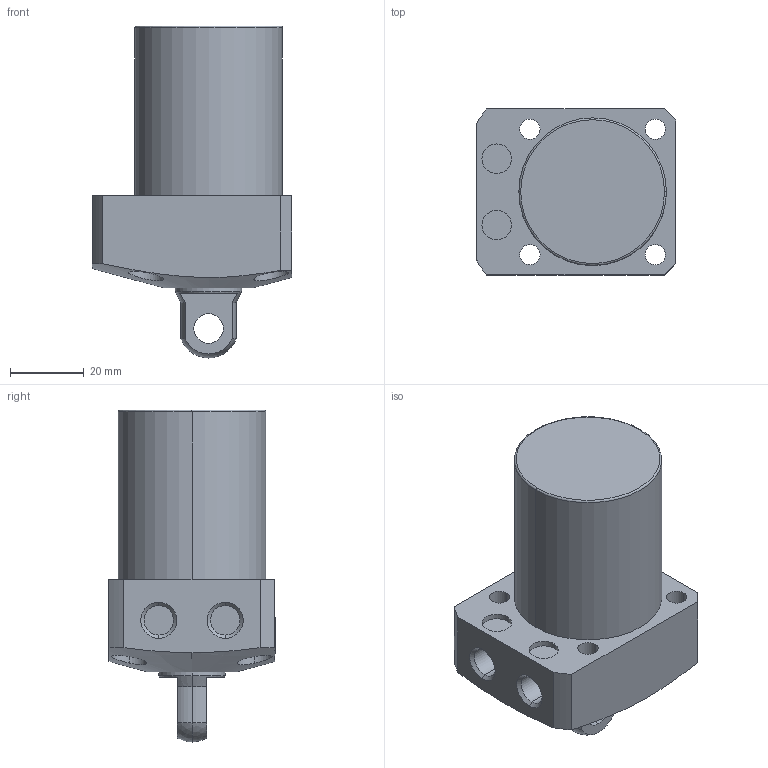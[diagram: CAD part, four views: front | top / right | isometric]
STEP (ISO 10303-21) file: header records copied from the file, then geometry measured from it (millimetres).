
FILE_DESCRIPTION (( 'STEP AP203' ), '1' );
FILE_NAME ('CLL-0400-CP-35.STEP', '2017-05-09T06:41:20', ( '' ), ( '' ), 'SwSTEP 2.0', 'SolidWorks 2015', '' );
FILE_SCHEMA (( 'CONFIG_CONTROL_DESIGN' ));
Length unit declared in the file: millimetre
Products named in the file (1): CLL-0400-CP-35
Bounding box: 54 x 45 x 90 mm (x, y, z)
Volume: 109848.8 mm3; surface area: 17709.5 mm2
Topology: 1 solids, 1 shells, 68 faces, 159 edges, 103 vertices
Faces by surface type: cylinder 35, plane 21, cone 8, sphere 2, torus 2
Entity records: 2379 total; most frequent: CARTESIAN_POINT 682, DIRECTION 357, ORIENTED_EDGE 318, EDGE_CURVE 159, AXIS2_PLACEMENT_3D 149, VERTEX_POINT 103, EDGE_LOOP 88, CIRCLE 80
